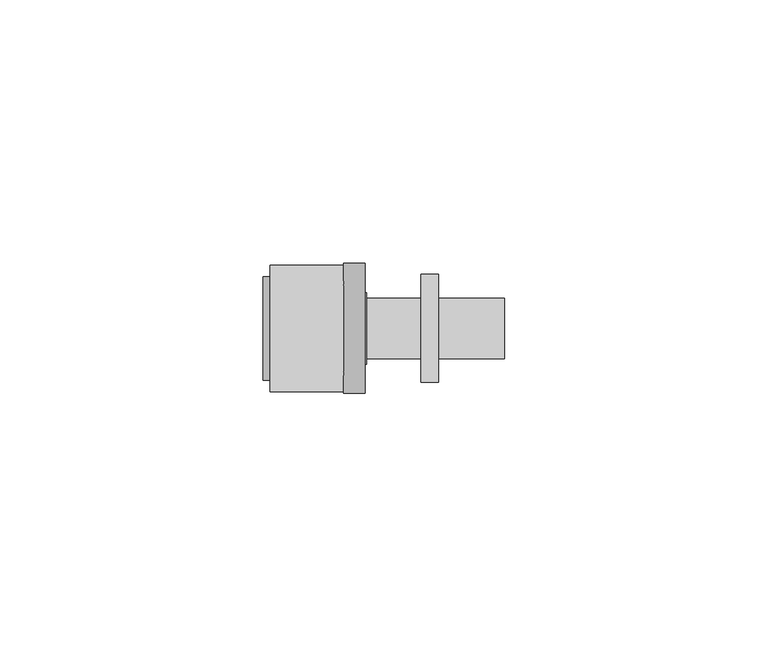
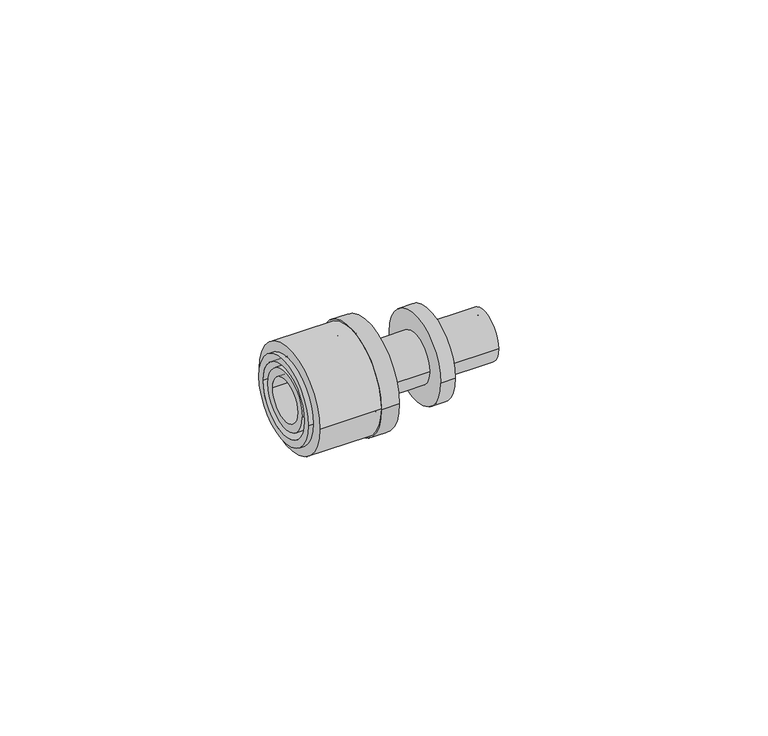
"""IFC4 building model written with IfcOpenShell, lengths in millimetres: pipe fitting geometry, FASTLOC_Adapter coupling EX+ : FSL TC EX+ AT."""

from ifc_helpers import new_model, si_unit, point, frame, origin, origin_2d, place, context, project, spatial, polyline, circle_curve, trimmed, segment, composite_curve, outline, extrude, source, transform, mapped, element, save
from ifc_brep_helpers import plane_surface, cylinder_surface, revolved_surface, advanced_brep


def pipe_fitting_f3faa13c(model_context):
    return source(origin(), model_context, "Body", "SolidModel", [
        extrude(outline(composite_curve([segment(trimmed(circle_curve(origin_2d(), 12.0), [point((12.0, 0.0))], [point((-12.0, 0.0))], False, "CARTESIAN"), True, "CONTINUOUS"), segment(trimmed(circle_curve(origin_2d(), 12.0), [point((-12.0, 0.0))], [point((12.0, 0.0))], False, "CARTESIAN"), True, "CONTINUOUS")], self_intersect=False), holes=[composite_curve([segment(trimmed(circle_curve(origin_2d(), 8.85), [point((8.85, 0.0))], [point((-8.85, 0.0))], True, "CARTESIAN"), True, "CONTINUOUS"), segment(trimmed(circle_curve(origin_2d(), 8.85), [point((-8.85, 0.0))], [point((8.85, 0.0))], True, "CARTESIAN"), True, "CONTINUOUS")], self_intersect=False)]), frame((-18.3, 0.0, 0.0), z_axis=(1.0, 0.0, 0.0), x_axis=(0.0, 1.0, 0.0)), (0.0, 0.0, 1.0), 14.0),
        advanced_brep(
        [(-4.3, -12.35, 0.0), (-4.3, 12.35, 0.0), (-0.3, 12.35, 0.0), (-0.3, -12.35, 0.0), (-19.6, -9.85, 0.0), (-19.6, 9.85, 0.0), (-4.3, 9.85, 0.0), (-4.3, -9.85, 0.0), (-0.3, -8.15, 0.0), (-0.3, 8.15, 0.0), (-19.6, 8.15, 0.0), (-19.6, -8.15, 0.0)],
        [
            (0, 1, circle_curve(frame((-4.3, 0.0, 0.0), z_axis=(1.0, 0.0, 0.0), x_axis=(0.0, 1.0, 0.0)), 12.35)),
            (1, 2),
            (2, 3, circle_curve(frame((-0.3, 0.0, 0.0), z_axis=(-1.0, 0.0, 0.0), x_axis=(0.0, 1.0, 0.0)), 12.35)),
            (3, 0),
            (4, 5, circle_curve(frame((-19.6, 0.0, 0.0), z_axis=(1.0, 0.0, 0.0), x_axis=(0.0, 1.0, 0.0)), 9.85)),
            (5, 6),
            (6, 7, circle_curve(frame((-4.3, 0.0, 0.0), z_axis=(-1.0, 0.0, 0.0), x_axis=(0.0, 1.0, 0.0)), 9.85)),
            (7, 4),
            (8, 9, circle_curve(frame((-0.3, 0.0, 0.0), z_axis=(1.0, 0.0, 0.0), x_axis=(0.0, 1.0, 0.0)), 8.15)),
            (9, 10),
            (10, 11, circle_curve(frame((-19.6, 0.0, 0.0), z_axis=(-1.0, 0.0, 0.0), x_axis=(0.0, 1.0, 0.0)), 8.15)),
            (11, 8),
            (1, 0, circle_curve(frame((-4.3, 0.0, 0.0), z_axis=(1.0, 0.0, 0.0), x_axis=(0.0, -1.0, 0.0)), 12.35)),
            (3, 2, circle_curve(frame((-0.3, 0.0, 0.0), z_axis=(-1.0, 0.0, 0.0), x_axis=(0.0, -1.0, 0.0)), 12.35)),
            (6, 7, circle_curve(frame((-4.3, 0.0, 0.0), z_axis=(1.0, 0.0, 0.0), x_axis=(0.0, -1.0, 0.0)), 9.85)),
            (5, 4, circle_curve(frame((-19.6, 0.0, 0.0), z_axis=(1.0, 0.0, 0.0), x_axis=(0.0, -1.0, 0.0)), 9.85)),
            (10, 11, circle_curve(frame((-19.6, 0.0, 0.0), z_axis=(1.0, 0.0, 0.0), x_axis=(0.0, -1.0, 0.0)), 8.15)),
            (9, 8, circle_curve(frame((-0.3, 0.0, 0.0), z_axis=(1.0, 0.0, 0.0), x_axis=(0.0, -1.0, 0.0)), 8.15)),
        ],
        [
            cylinder_surface(frame((-0.3, 0.0, 0.0), z_axis=(-1.0, 0.0, 0.0), x_axis=(0.0, 1.0, 0.0)), 12.35),
            cylinder_surface(frame((-0.3, 0.0, 0.0), z_axis=(-1.0, 0.0, 0.0), x_axis=(0.0, 1.0, 0.0)), 9.85),
            revolved_surface(polyline([(-19.6, 8.15, 0.0), (-0.3, 8.15, 0.0)]), (-0.3, 0.0, 0.0), (-1.0, 0.0, 0.0)),
            cylinder_surface(frame((-0.3, 0.0, 0.0), z_axis=(-1.0, 0.0, 0.0), x_axis=(0.0, -1.0, 0.0)), 12.35),
            plane_surface(frame((-4.3, 0.0, 0.0), z_axis=(-1.0, 0.0, 0.0), x_axis=(0.0, -1.0, 0.0))),
            cylinder_surface(frame((-0.3, 0.0, 0.0), z_axis=(-1.0, 0.0, 0.0), x_axis=(0.0, -1.0, 0.0)), 9.85),
            plane_surface(frame((-19.6, 0.0, 0.0), z_axis=(-1.0, 0.0, 0.0), x_axis=(0.0, -1.0, 0.0))),
            revolved_surface(polyline([(-19.6, -8.15, 0.0), (-0.3, -8.15, 0.0)]), (-0.3, 0.0, 0.0), (-1.0, 0.0, 0.0)),
            plane_surface(frame((-0.3, 0.0, 0.0), z_axis=(1.0, 0.0, 0.0), x_axis=(0.0, -1.0, 0.0))),
        ],
        [
            (0, [[1, 2, 3, 4]]),
            (1, [[5, 6, 7, 8]]),
            (2, [[9, 10, 11, 12]]),
            (3, [[13, -4, 14, -2]]),
            (4, [[-13, -1], [15, -7]]),
            (5, [[16, -8, -15, -6]]),
            (6, [[-16, -5], [17, -11]]),
            (7, [[18, -12, -17, -10]]),
            (8, [[-14, -3], [-18, -9]]),
        ],
    ),
        advanced_brep(
        [(0.0, 3.95, 0.0), (0.0, -3.95, 0.0), (26.2, -3.95, 0.0), (26.2, 3.95, 0.0), (10.4, 5.75, 0.0), (10.4, -5.75, 0.0), (0.0, -5.75, 0.0), (0.0, 5.75, 0.0), (13.7, 10.25, 0.0), (13.7, -10.25, 0.0), (10.4, -10.25, 0.0), (10.4, 10.25, 0.0), (26.2, 5.75, 0.0), (26.2, -5.75, 0.0), (13.7, -5.75, 0.0), (13.7, 5.75, 0.0)],
        [
            (0, 1, circle_curve(frame((0.0, 0.0, 0.0), z_axis=(-1.0, 0.0, 0.0), x_axis=(0.0, -1.0, 0.0)), 3.95)),
            (1, 2),
            (2, 3, circle_curve(frame((26.2, 0.0, 0.0), z_axis=(1.0, 0.0, 0.0), x_axis=(0.0, -1.0, 0.0)), 3.95)),
            (3, 0),
            (4, 5, circle_curve(frame((10.4, 0.0, 0.0), z_axis=(-1.0, 0.0, 0.0), x_axis=(0.0, -1.0, 0.0)), 5.75)),
            (5, 6),
            (6, 7, circle_curve(frame((0.0, 0.0, 0.0), z_axis=(1.0, 0.0, 0.0), x_axis=(0.0, -1.0, 0.0)), 5.75)),
            (7, 4),
            (8, 9, circle_curve(frame((13.7, 0.0, 0.0), z_axis=(-1.0, 0.0, 0.0), x_axis=(0.0, -1.0, 0.0)), 10.25)),
            (9, 10),
            (10, 11, circle_curve(frame((10.4, 0.0, 0.0), z_axis=(1.0, 0.0, 0.0), x_axis=(0.0, -1.0, 0.0)), 10.25)),
            (11, 8),
            (12, 13, circle_curve(frame((26.2, 0.0, 0.0), z_axis=(-1.0, 0.0, 0.0), x_axis=(0.0, -1.0, 0.0)), 5.75)),
            (13, 14),
            (14, 15, circle_curve(frame((13.7, 0.0, 0.0), z_axis=(1.0, 0.0, 0.0), x_axis=(0.0, -1.0, 0.0)), 5.75)),
            (15, 12),
            (1, 0, circle_curve(frame((0.0, 0.0, 0.0), z_axis=(-1.0, 0.0, 0.0), x_axis=(0.0, 1.0, 0.0)), 3.95)),
            (3, 2, circle_curve(frame((26.2, 0.0, 0.0), z_axis=(1.0, 0.0, 0.0), x_axis=(0.0, 1.0, 0.0)), 3.95)),
            (6, 7, circle_curve(frame((0.0, 0.0, 0.0), z_axis=(-1.0, 0.0, 0.0), x_axis=(0.0, 1.0, 0.0)), 5.75)),
            (5, 4, circle_curve(frame((10.4, 0.0, 0.0), z_axis=(-1.0, 0.0, 0.0), x_axis=(0.0, 1.0, 0.0)), 5.75)),
            (10, 11, circle_curve(frame((10.4, 0.0, 0.0), z_axis=(-1.0, 0.0, 0.0), x_axis=(0.0, 1.0, 0.0)), 10.25)),
            (9, 8, circle_curve(frame((13.7, 0.0, 0.0), z_axis=(-1.0, 0.0, 0.0), x_axis=(0.0, 1.0, 0.0)), 10.25)),
            (14, 15, circle_curve(frame((13.7, 0.0, 0.0), z_axis=(-1.0, 0.0, 0.0), x_axis=(0.0, 1.0, 0.0)), 5.75)),
            (13, 12, circle_curve(frame((26.2, 0.0, 0.0), z_axis=(-1.0, 0.0, 0.0), x_axis=(0.0, 1.0, 0.0)), 5.75)),
        ],
        [
            revolved_surface(polyline([(26.2, -3.95, 0.0), (0.0, -3.95, 0.0)]), (0.0, 0.0, 0.0), (1.0, 0.0, 0.0)),
            cylinder_surface(frame((0.0, 0.0, 0.0), z_axis=(1.0, 0.0, 0.0), x_axis=(0.0, -1.0, 0.0)), 5.75),
            cylinder_surface(frame((0.0, 0.0, 0.0), z_axis=(1.0, 0.0, 0.0), x_axis=(0.0, -1.0, 0.0)), 10.25),
            revolved_surface(polyline([(26.2, 3.95, 0.0), (0.0, 3.95, 0.0)]), (0.0, 0.0, 0.0), (1.0, 0.0, 0.0)),
            plane_surface(frame((0.0, 0.0, 0.0), z_axis=(-1.0, 0.0, 0.0), x_axis=(0.0, 1.0, 0.0))),
            cylinder_surface(frame((0.0, 0.0, 0.0), z_axis=(1.0, 0.0, 0.0), x_axis=(0.0, 1.0, 0.0)), 5.75),
            plane_surface(frame((10.4, 0.0, 0.0), z_axis=(-1.0, 0.0, 0.0), x_axis=(0.0, 1.0, 0.0))),
            cylinder_surface(frame((0.0, 0.0, 0.0), z_axis=(1.0, 0.0, 0.0), x_axis=(0.0, 1.0, 0.0)), 10.25),
            plane_surface(frame((13.7, 0.0, 0.0), z_axis=(1.0, 0.0, 0.0), x_axis=(0.0, 1.0, 0.0))),
            plane_surface(frame((26.2, 0.0, 0.0), z_axis=(1.0, 0.0, 0.0), x_axis=(0.0, 1.0, 0.0))),
        ],
        [
            (0, [[1, 2, 3, 4]]),
            (1, [[5, 6, 7, 8]]),
            (2, [[9, 10, 11, 12]]),
            (1, [[13, 14, 15, 16]]),
            (3, [[17, -4, 18, -2]]),
            (4, [[19, -7], [-17, -1]]),
            (5, [[20, -8, -19, -6]]),
            (6, [[21, -11], [-20, -5]]),
            (7, [[22, -12, -21, -10]]),
            (8, [[-22, -9], [23, -15]]),
            (5, [[24, -16, -23, -14]]),
            (9, [[-24, -13], [-18, -3]]),
        ],
    ),
        advanced_brep(
        [(-4.3, 6.8, 0.0), (-4.3, -6.8, 0.0), (-19.3, -6.8, 0.0), (-19.3, 6.8, 0.0), (-1.6, 7.9, 0.0), (-1.6, -7.9, 0.0), (-4.3, -7.9, 0.0), (-4.3, 7.9, 0.0), (0.0, 6.8, 0.0), (0.0, -6.8, 0.0), (-1.6, -6.8, 0.0), (-1.6, 6.8, 0.0), (-19.3, 4.95, 0.0), (-19.3, -4.95, 0.0), (0.0, -4.95, 0.0), (0.0, 4.95, 0.0)],
        [
            (0, 1, circle_curve(frame((-4.3, 0.0, 0.0), z_axis=(-1.0, 0.0, 0.0), x_axis=(0.0, -1.0, 0.0)), 6.8)),
            (1, 2),
            (2, 3, circle_curve(frame((-19.3, 0.0, 0.0), z_axis=(1.0, 0.0, 0.0), x_axis=(0.0, -1.0, 0.0)), 6.8)),
            (3, 0),
            (4, 5, circle_curve(frame((-1.6, 0.0, 0.0), z_axis=(-1.0, 0.0, 0.0), x_axis=(0.0, -1.0, 0.0)), 7.9)),
            (5, 6),
            (6, 7, circle_curve(frame((-4.3, 0.0, 0.0), z_axis=(1.0, 0.0, 0.0), x_axis=(0.0, -1.0, 0.0)), 7.9)),
            (7, 4),
            (8, 9, circle_curve(frame((0.0, 0.0, 0.0), z_axis=(-1.0, 0.0, 0.0), x_axis=(0.0, -1.0, 0.0)), 6.8)),
            (9, 10),
            (10, 11, circle_curve(frame((-1.6, 0.0, 0.0), z_axis=(1.0, 0.0, 0.0), x_axis=(0.0, -1.0, 0.0)), 6.8)),
            (11, 8),
            (12, 13, circle_curve(frame((-19.3, 0.0, 0.0), z_axis=(-1.0, 0.0, 0.0), x_axis=(0.0, -1.0, 0.0)), 4.95)),
            (13, 14),
            (14, 15, circle_curve(frame((0.0, 0.0, 0.0), z_axis=(1.0, 0.0, 0.0), x_axis=(0.0, -1.0, 0.0)), 4.95)),
            (15, 12),
            (2, 3, circle_curve(frame((-19.3, 0.0, 0.0), z_axis=(-1.0, 0.0, 0.0), x_axis=(0.0, 1.0, 0.0)), 6.8)),
            (12, 13, circle_curve(frame((-19.3, 0.0, 0.0), z_axis=(1.0, 0.0, 0.0), x_axis=(0.0, 1.0, 0.0)), 4.95)),
            (1, 0, circle_curve(frame((-4.3, 0.0, 0.0), z_axis=(-1.0, 0.0, 0.0), x_axis=(0.0, 1.0, 0.0)), 6.8)),
            (6, 7, circle_curve(frame((-4.3, 0.0, 0.0), z_axis=(-1.0, 0.0, 0.0), x_axis=(0.0, 1.0, 0.0)), 7.9)),
            (5, 4, circle_curve(frame((-1.6, 0.0, 0.0), z_axis=(-1.0, 0.0, 0.0), x_axis=(0.0, 1.0, 0.0)), 7.9)),
            (10, 11, circle_curve(frame((-1.6, 0.0, 0.0), z_axis=(-1.0, 0.0, 0.0), x_axis=(0.0, 1.0, 0.0)), 6.8)),
            (9, 8, circle_curve(frame((0.0, 0.0, 0.0), z_axis=(-1.0, 0.0, 0.0), x_axis=(0.0, 1.0, 0.0)), 6.8)),
            (14, 15, circle_curve(frame((0.0, 0.0, 0.0), z_axis=(-1.0, 0.0, 0.0), x_axis=(0.0, 1.0, 0.0)), 4.95)),
        ],
        [
            cylinder_surface(frame((0.0, 0.0, 0.0), z_axis=(1.0, 0.0, 0.0), x_axis=(0.0, -1.0, 0.0)), 6.8),
            cylinder_surface(frame((0.0, 0.0, 0.0), z_axis=(1.0, 0.0, 0.0), x_axis=(0.0, -1.0, 0.0)), 7.9),
            revolved_surface(polyline([(0.0, -4.95, 0.0), (-19.3, -4.95, 0.0)]), (0.0, 0.0, 0.0), (1.0, 0.0, 0.0)),
            plane_surface(frame((-19.3, 0.0, 0.0), z_axis=(-1.0, 0.0, 0.0), x_axis=(0.0, 1.0, 0.0))),
            cylinder_surface(frame((0.0, 0.0, 0.0), z_axis=(1.0, 0.0, 0.0), x_axis=(0.0, 1.0, 0.0)), 6.8),
            plane_surface(frame((-4.3, 0.0, 0.0), z_axis=(-1.0, 0.0, 0.0), x_axis=(0.0, 1.0, 0.0))),
            cylinder_surface(frame((0.0, 0.0, 0.0), z_axis=(1.0, 0.0, 0.0), x_axis=(0.0, 1.0, 0.0)), 7.9),
            plane_surface(frame((-1.6, 0.0, 0.0), z_axis=(1.0, 0.0, 0.0), x_axis=(0.0, 1.0, 0.0))),
            plane_surface(frame((0.0, 0.0, 0.0), z_axis=(1.0, 0.0, 0.0), x_axis=(0.0, 1.0, 0.0))),
            revolved_surface(polyline([(0.0, 4.95, 0.0), (-19.3, 4.95, 0.0)]), (0.0, 0.0, 0.0), (1.0, 0.0, 0.0)),
        ],
        [
            (0, [[1, 2, 3, 4]]),
            (1, [[5, 6, 7, 8]]),
            (0, [[9, 10, 11, 12]]),
            (2, [[13, 14, 15, 16]]),
            (3, [[17, -3], [18, -13]]),
            (4, [[19, -4, -17, -2]]),
            (5, [[20, -7], [-19, -1]]),
            (6, [[21, -8, -20, -6]]),
            (7, [[-21, -5], [22, -11]]),
            (4, [[23, -12, -22, -10]]),
            (8, [[-23, -9], [24, -15]]),
            (9, [[-18, -16, -24, -14]]),
        ],
    ),
    ])


if __name__ == "__main__":
    model = new_model("IFC4")
    model_context = context("Model", 3, world=origin())
    ifc_project = project(units=[si_unit("LENGTHUNIT", "METRE", prefix="MILLI")], contexts=[model_context])
    site = spatial("IfcSite", under=ifc_project)
    building = spatial("IfcBuilding", under=site)
    placement = place(None, origin())
    pipe_fitting_shape = pipe_fitting_f3faa13c(model_context)
    element("IfcPipeFitting", 1, ObjectType="FASTLOC_Adapter coupling EX+ : FSL TC EX+ AT", at=placement, inside=building, context=model_context, shape_type="MappedRepresentation", body=[
        mapped(pipe_fitting_shape, transform((0.0, 0.0, 0.0), x_axis=(1.0, 0.0, 0.0), y_axis=(0.0, 1.0, 0.0), z_axis=(0.0, 0.0, 1.0))),
    ])
    save(model, "model.ifc")
